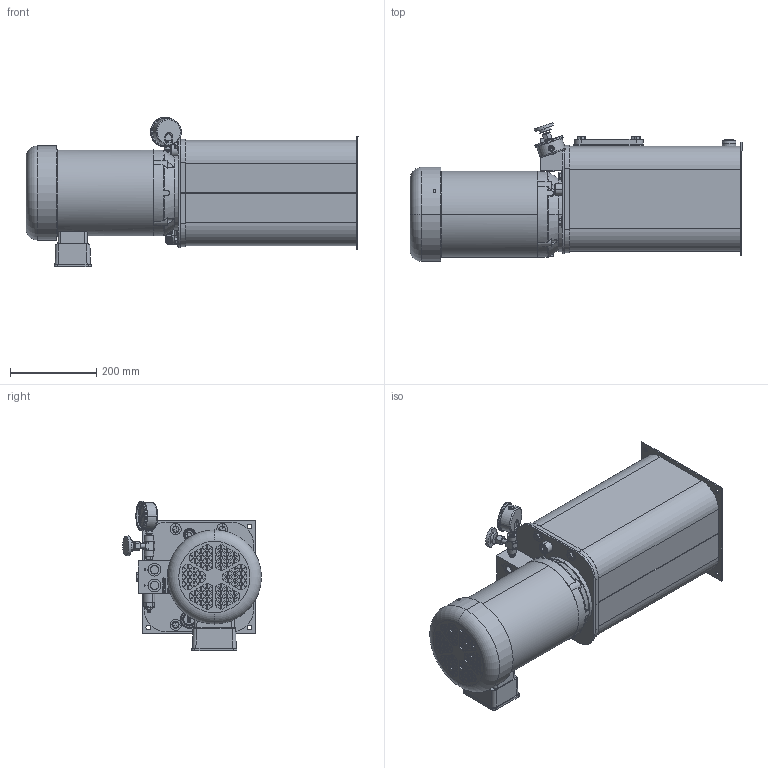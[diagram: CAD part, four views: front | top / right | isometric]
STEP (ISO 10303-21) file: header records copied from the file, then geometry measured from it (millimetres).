
FILE_DESCRIPTION (( 'STEP AP214' ), '1' );
FILE_NAME ('T5V-20-X-NN-XX-c079.STEP', '2021-08-26T19:48:34', ( '' ), ( '' ), 'SwSTEP 2.0', 'SolidWorks 2020', '' );
FILE_SCHEMA (( 'AUTOMOTIVE_DESIGN' ));
Length unit declared in the file: inch
Products named in the file (1): T5V-20-X-NN-XX-c079
Bounding box: 770.88 x 322.15 x 347.53 mm (x, y, z)
Surface area: 1009068.9 mm2 (no closed solid volume)
Topology: 0 solids, 72 shells, 1372 faces, 6344 edges, 4821 vertices
Faces by surface type: plane 815, cylinder 320, cone 135, torus 57, bspline 37, sphere 8
Entity records: 94898 total; most frequent: CARTESIAN_POINT 27391, DIRECTION 10119, ORIENTED_EDGE 9040, EDGE_CURVE 6342, VERTEX_POINT 4821, LINE 3765, VECTOR 3765, AXIS2_PLACEMENT_3D 3177
